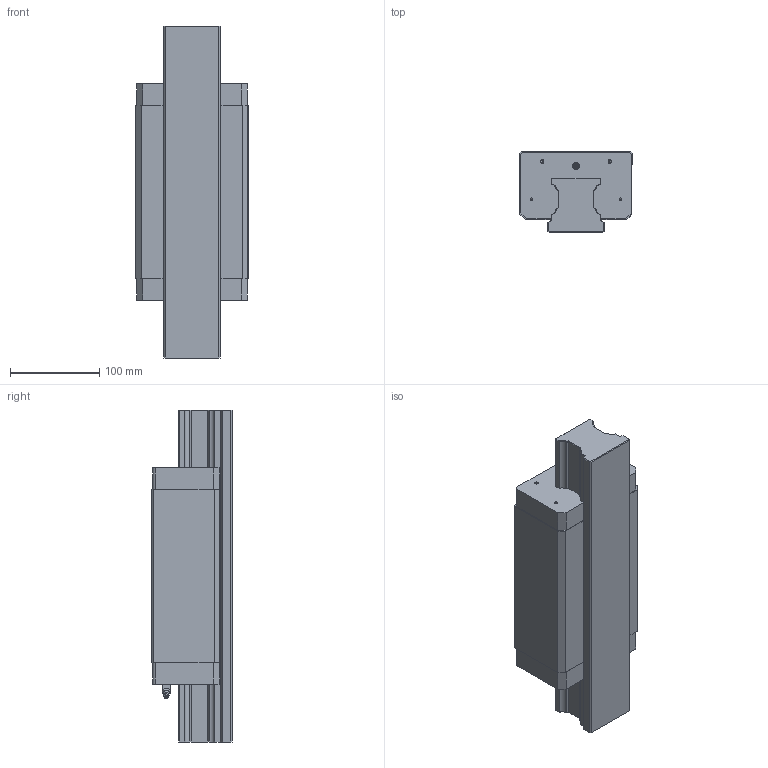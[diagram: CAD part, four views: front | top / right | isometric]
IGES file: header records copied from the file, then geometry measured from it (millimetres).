
Start section: 3D InterOp IGES (v. 2019 1.0.2), Spatial Corp. Copyright (c) 1999-2017.
Global section: file name: R1623_size65.igs; native system: Spatial Corp.; preprocessor: 3D InterOp GENERIC/IGES 3.0; author: Noname; organization: Noname; date: 20220629.124920; units: millimetre
Bounding box: 126 x 90 x 373 mm (x, y, z)
Surface area: 307791.8 mm2 (no closed solid volume)
Topology: 0 solids, 0 shells, 313 faces, 1728 edges, 1696 vertices
Faces by surface type: extrusion 159, revolution 152, bspline 2
